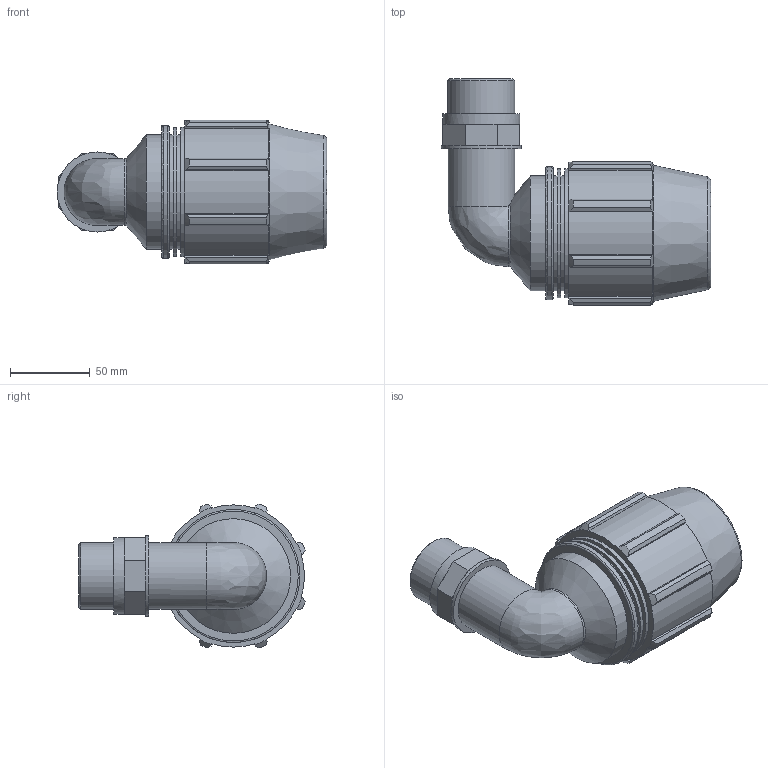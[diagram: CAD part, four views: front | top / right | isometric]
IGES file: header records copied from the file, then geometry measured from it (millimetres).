
Global section: file name: 077700050013_187700050013_0777060500130A.ipt; native system: Autodesk Inventor 2015; preprocessor: unknown; author: KIM; date: 20170622.103110; units: millimetre
Bounding box: 169.15 x 142.16 x 90.33 mm (x, y, z)
Volume: 536693 mm3; surface area: 90354.7 mm2
Topology: 1 solids, 1 shells, 125 faces, 320 edges, 205 vertices
Faces by surface type: plane 76, cylinder 27, cone 12, revolution 9, bspline 1
Full cylindrical faces by diameter (mm): 41.91 x2, 48.197 x1, 50.292 x1, 72 x3, 81.014 x2, 83.52 x1
